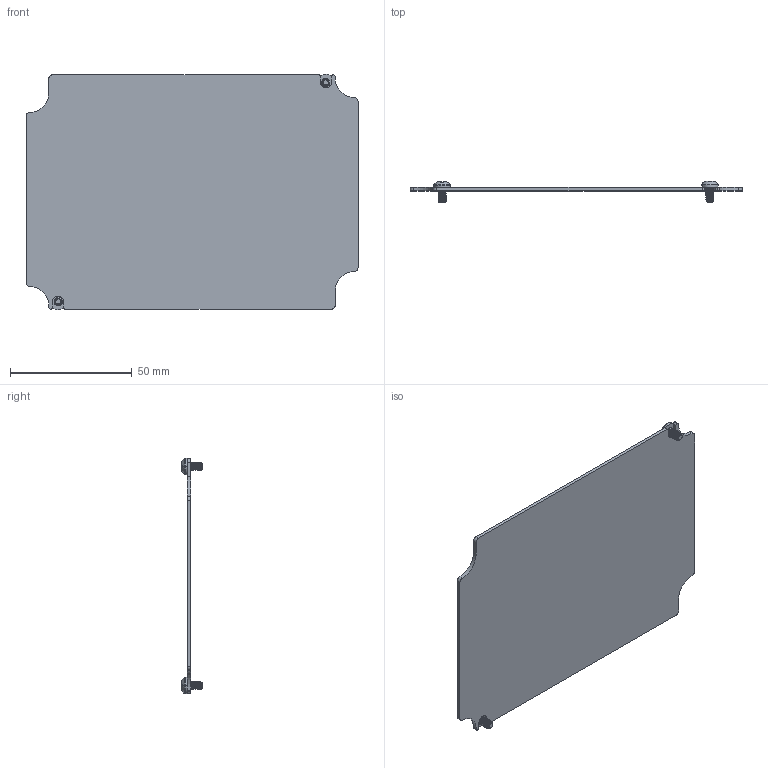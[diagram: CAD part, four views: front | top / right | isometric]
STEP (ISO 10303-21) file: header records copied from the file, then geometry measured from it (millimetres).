
FILE_DESCRIPTION (( 'STEP AP214' ), '1' );
FILE_NAME ('AN-05K.step', '2026-09-17T19:32:06', ( '' ), ( '' ), 'SwSTEP 2.0', 'SolidWorks 2026', '' );
FILE_SCHEMA (( 'AUTOMOTIVE_DESIGN' ));
Length unit declared in the file: inch
Products named in the file (3): SCREWS-050; AN-05-P_DEFAULT; AN-05K
Assembly tree (3 placements, depth 2):
  AN-05K
    AN-05-P_DEFAULT
    SCREWS-050  x2
Bounding box: 136.4 x 8.8 x 96.86 mm (x, y, z)
Volume: 19532.6 mm3; surface area: 26460.1 mm2
Topology: 3 solids, 3 shells, 703 faces, 1707 edges, 1008 vertices
Faces by surface type: bspline 368, cylinder 175, plane 64, sphere 48, cone 40, torus 8
Entity records: 17469 total; most frequent: CARTESIAN_POINT 10077, ORIENTED_EDGE 1796, DIRECTION 1062, EDGE_CURVE 898, VERTEX_POINT 535, B_SPLINE_CURVE_WITH_KNOTS 415, AXIS2_PLACEMENT_3D 389, EDGE_LOOP 369
